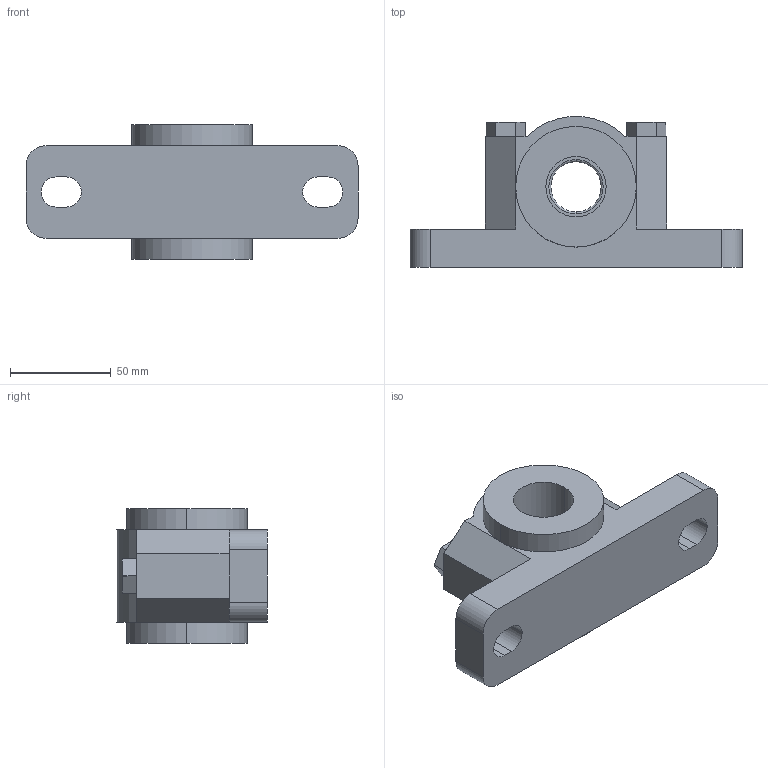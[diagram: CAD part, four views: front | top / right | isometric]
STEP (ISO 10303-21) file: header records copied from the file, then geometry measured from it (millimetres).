
FILE_DESCRIPTION(('SolidDesigner STEP Export'),'2;1');
FILE_NAME('Stehlagegehaeuse_SN205_VS.stp','2002-07-26T12:04:05',(''),(''),'SolidDesigner STEP processor Version: 9.0 (March 2001)for AP214(CD)(Solid Model)','CoCreate SolidDesigner: 11.00 12-Dec-2001(C) CoCreate Software GmbH','');
FILE_SCHEMA(('AUTOMOTIVE_DESIGN_CC2 {1 2 10303 214 -1 1 5 1}'));
Length unit declared in the file: millimetre
Products named in the file (3): Stehlagegehaeuse_SN205_VS; Pendelrollenlager_22205_E_31650
Assembly tree (2 placements, depth 2):
  Stehlagegehaeuse_SN205_VS
    Pendelrollenlager_22205_E_31650
    Stehlagegehaeuse_SN205_VS
Bounding box: 165 x 74.87 x 67 mm (x, y, z)
Volume: 336302.9 mm3; surface area: 57327.6 mm2
Topology: 2 solids, 2 shells, 78 faces, 196 edges, 126 vertices
Faces by surface type: plane 43, cylinder 27, torus 8
Entity records: 2203 total; most frequent: ORIENTED_EDGE 392, CARTESIAN_POINT 357, DIRECTION 340, EDGE_CURVE 196, VERTEX_POINT 126, VECTOR 122, LINE 122, AXIS2_PLACEMENT_3D 109
